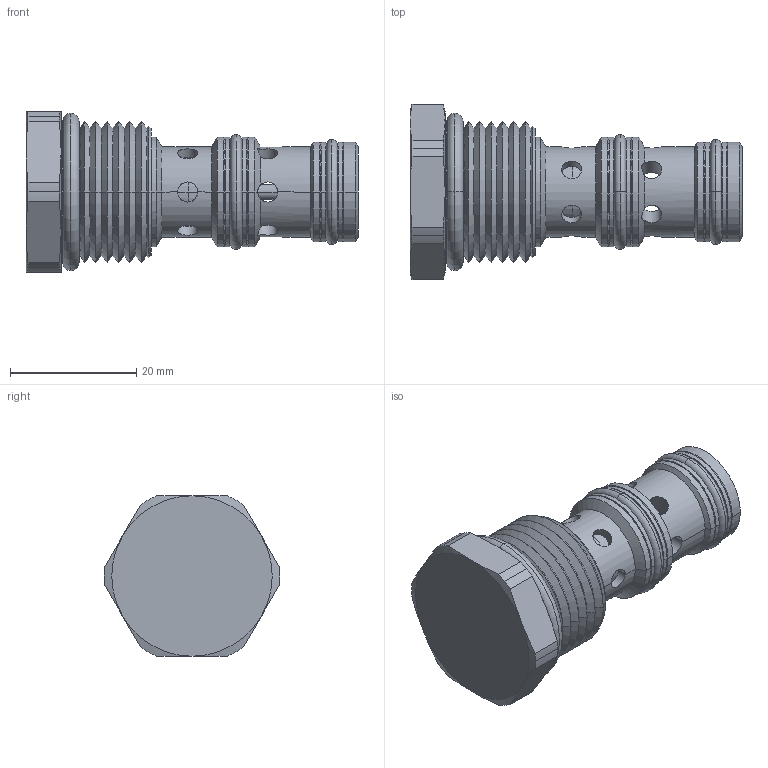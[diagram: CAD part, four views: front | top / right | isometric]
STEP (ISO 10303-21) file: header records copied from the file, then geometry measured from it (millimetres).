
FILE_DESCRIPTION((''),'2;1');
FILE_NAME('U:\Solid model CD\Solid model full\Mechanical\STEP\DFCPC00-3D Full.stp','2008-07-29T09:05:05',('Dan'),(''),'Autodesk Inventor 9','Autodesk Inventor 9','');
FILE_SCHEMA(('AUTOMOTIVE_DESIGN { 1 0 10303 214 1 1 1 1 }'));
Length unit declared in the file: inch
Products named in the file (10): DFCPC00-3D Full; DFCPC00-3D Full1; DFCPC00-3D Full2; DFCPC00-3D Full3; DFCPC00-3D Full4; DFCPC00-3D Full5; DFCPC00-3D Full6; DFCPC00-3D Full7; DFCPC00-3D Full8; DFCPC00-3D Full9
Assembly tree (9 placements, depth 2):
  DFCPC00-3D Full
    DFCPC00-3D Full1
    DFCPC00-3D Full2
    DFCPC00-3D Full3
    DFCPC00-3D Full4
    DFCPC00-3D Full5
    DFCPC00-3D Full6
    DFCPC00-3D Full7
    DFCPC00-3D Full8
    DFCPC00-3D Full9
Bounding box: 52.58 x 27.76 x 25.4 mm (x, y, z)
Volume: 13862.4 mm3; surface area: 7671.8 mm2
Topology: 9 solids, 9 shells, 207 faces, 521 edges, 325 vertices
Faces by surface type: cylinder 86, cone 54, plane 29, torus 26, bspline 10, sphere 2
Entity records: 7739 total; most frequent: CARTESIAN_POINT 2456, DIRECTION 1130, ORIENTED_EDGE 1042, EDGE_CURVE 521, AXIS2_PLACEMENT_3D 495, VERTEX_POINT 325, CIRCLE 279, EDGE_LOOP 240
